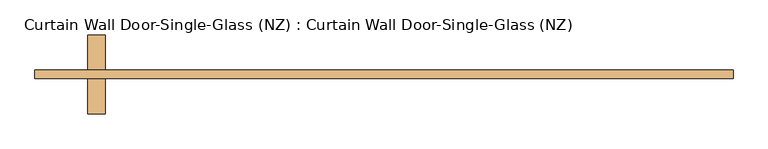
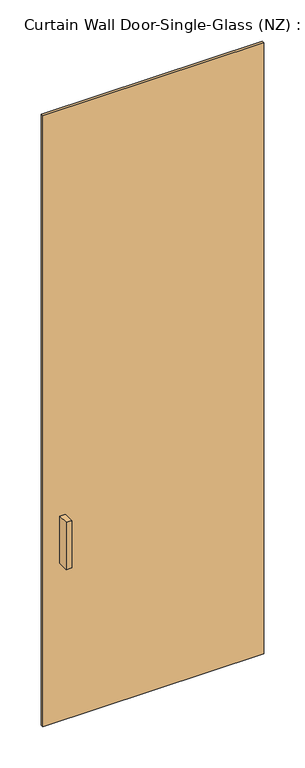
"""IFC4 building model written with IfcOpenShell, lengths in millimetres: door geometry, Curtain Wall Door-Single-Glass (NZ) : Curtain Wall Door-Single-Glass (NZ)."""

from ifc_helpers import new_model, si_unit, frame, origin, origin_with_axes, place, context, project, spatial, polyline, outline, extrude, source, transform, mapped, element, save


def curtain_wall_door_single_glass_nz_curtain_wall_door_single_26af021f(model_context):
    return source(origin(), model_context, "Body", "SweptSolid", [
        extrude(outline(polyline([(504.25, -51.0), (-504.25, -51.0), (-504.25, -38.3), (504.25, -38.3), (504.25, -51.0)])), origin_with_axes(), (0.0, 0.0, 1.0), 2950.0),
        extrude(outline(polyline([(-428.05, -101.8), (-428.05, -51.0), (-402.65, -51.0), (-402.65, -101.8), (-428.05, -101.8)])), frame((0.0, 0.0, 762.0), z_axis=(0.0, 0.0, 1.0), x_axis=(1.0, 0.0, 0.0)), (0.0, 0.0, 1.0), 228.6),
        extrude(outline(polyline([(-402.65, 12.5), (-402.65, -38.3), (-428.05, -38.3), (-428.05, 12.5), (-402.65, 12.5)])), frame((0.0, 0.0, 762.0), z_axis=(0.0, 0.0, 1.0), x_axis=(1.0, 0.0, 0.0)), (0.0, 0.0, 1.0), 228.6),
    ])


if __name__ == "__main__":
    model = new_model("IFC4")
    model_context = context("Model", 3, world=origin())
    ifc_project = project(units=[si_unit("LENGTHUNIT", "METRE", prefix="MILLI")], contexts=[model_context])
    site = spatial("IfcSite", under=ifc_project)
    building = spatial("IfcBuilding", under=site)
    placement = place(None, origin())
    curtain_wall_door_single_glass_nz_curtain_wall_door_single_shape = curtain_wall_door_single_glass_nz_curtain_wall_door_single_26af021f(model_context)
    element("IfcDoor", 1, ObjectType="Curtain Wall Door-Single-Glass (NZ) : Curtain Wall Door-Single-Glass (NZ)", at=placement, inside=building, context=model_context, shape_type="MappedRepresentation", body=[
        mapped(curtain_wall_door_single_glass_nz_curtain_wall_door_single_shape, transform((0.0, 0.0, 0.0), x_axis=(1.0, 0.0, 0.0), y_axis=(0.0, 1.0, 0.0), z_axis=(0.0, 0.0, 1.0))),
    ])
    save(model, "model.ifc")
